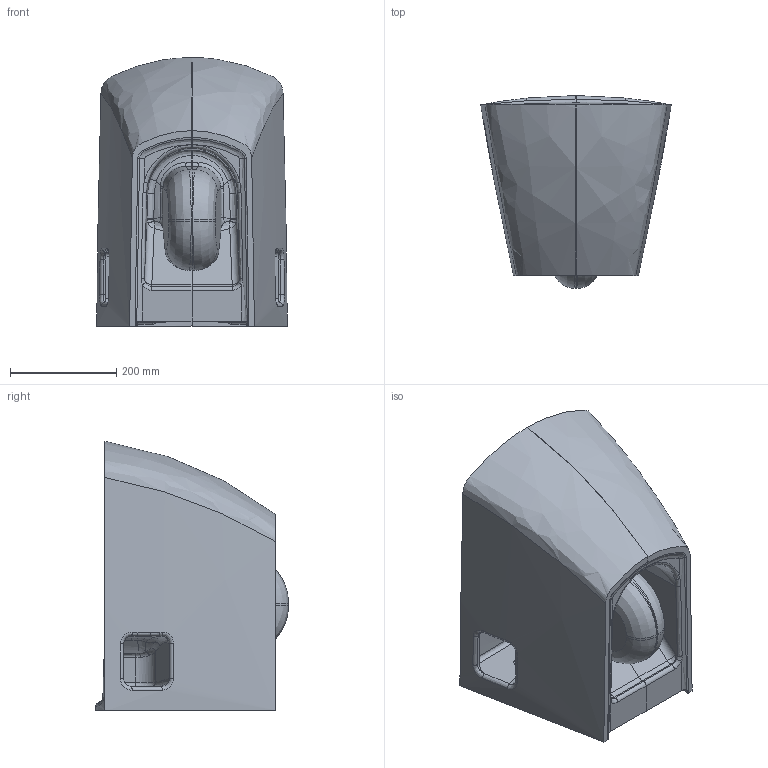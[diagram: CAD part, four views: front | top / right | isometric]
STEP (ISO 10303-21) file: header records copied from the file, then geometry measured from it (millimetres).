
FILE_DESCRIPTION (( 'STEP AP203' ), '1' );
FILE_NAME ('TP326.STEP', '2018-10-22T07:26:33', ( '' ), ( '' ), 'SwSTEP 2.0', 'SolidWorks 2018', '' );
FILE_SCHEMA (( 'CONFIG_CONTROL_DESIGN' ));
Length unit declared in the file: millimetre
Products named in the file (1): TP326
Bounding box: 357.99 x 362.47 x 505 mm (x, y, z)
Volume: 19286169.9 mm3; surface area: 1386736.8 mm2
Topology: 2 solids, 2 shells, 773 faces, 2034 edges, 1269 vertices
Faces by surface type: bspline 509, plane 162, cylinder 64, cone 38
Entity records: 99583 total; most frequent: CARTESIAN_POINT 84851, ORIENTED_EDGE 4024, EDGE_CURVE 2012, DIRECTION 1620, VERTEX_POINT 1269, B_SPLINE_CURVE_WITH_KNOTS 1142, EDGE_LOOP 799, FACE_OUTER_BOUND 773
